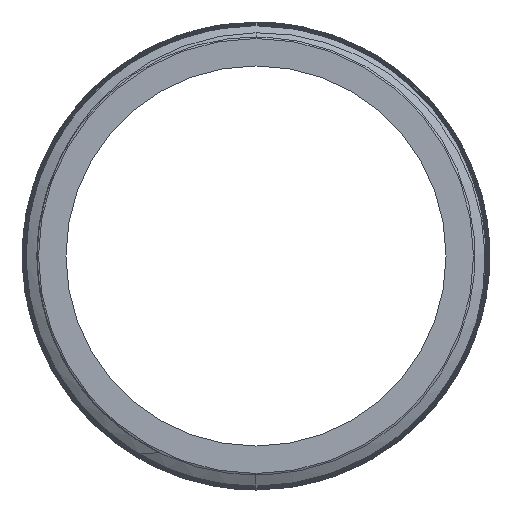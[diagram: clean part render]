
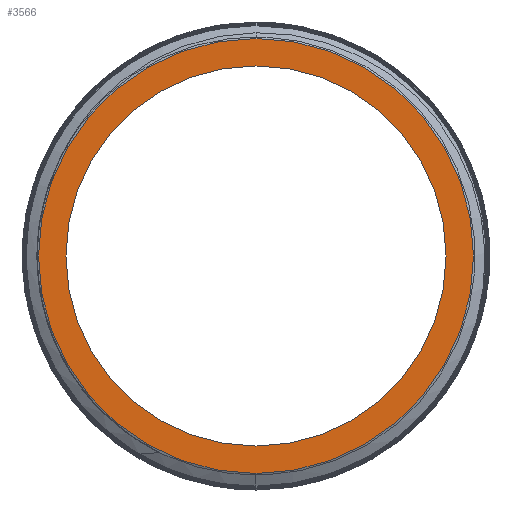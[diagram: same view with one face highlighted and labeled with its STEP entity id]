
A CAD part, left-side view. The second image highlights one B-rep face of the part: STEP entity #3566.
In plain terms, the highlighted planar face has unit normal (-1, 0, 0).
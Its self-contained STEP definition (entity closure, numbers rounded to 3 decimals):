
#7 = FACE_BOUND ( 'NONE', #2348, .T. ) ;
#42 = EDGE_LOOP ( 'NONE', ( #3143, #4885 ) ) ;
#244 = EDGE_CURVE ( 'NONE', #4541, #8817, #6253, .T. ) ;
#324 = EDGE_CURVE ( 'NONE', #8817, #4541, #4328, .T. ) ;
#584 = DIRECTION ( 'NONE',  ( -1., 0., 0. ) ) ;
#599 = CIRCLE ( 'NONE', #2855, 9.9 ) ;
#610 = FACE_OUTER_BOUND ( 'NONE', #42, .T. ) ;
#754 = AXIS2_PLACEMENT_3D ( 'NONE', #7720, #7170, #6315 ) ;
#1380 = CARTESIAN_POINT ( 'NONE',  ( -150., 0., -9.9 ) ) ;
#2048 = DIRECTION ( 'NONE',  ( -1., 0., 0. ) ) ;
#2204 = CARTESIAN_POINT ( 'NONE',  ( -150., 0., 0. ) ) ;
#2325 = CARTESIAN_POINT ( 'NONE',  ( -150., 0., 9.9 ) ) ;
#2348 = EDGE_LOOP ( 'NONE', ( #3970, #7853 ) ) ;
#2611 = CIRCLE ( 'NONE', #8577, 9.9 ) ;
#2855 = AXIS2_PLACEMENT_3D ( 'NONE', #7703, #2048, #5595 ) ;
#2992 = AXIS2_PLACEMENT_3D ( 'NONE', #3411, #5699, #6257 ) ;
#3143 = ORIENTED_EDGE ( 'NONE', *, *, #4545, .T. ) ;
#3312 = VERTEX_POINT ( 'NONE', #2325 ) ;
#3411 = CARTESIAN_POINT ( 'NONE',  ( -150., 0., 0. ) ) ;
#3500 = CARTESIAN_POINT ( 'NONE',  ( -150., 0., 8.65 ) ) ;
#3566 = ADVANCED_FACE ( 'NONE', ( #7, #610 ), #9210, .F. ) ;
#3577 = AXIS2_PLACEMENT_3D ( 'NONE', #2204, #5942, #7304 ) ;
#3970 = ORIENTED_EDGE ( 'NONE', *, *, #244, .F. ) ;
#4328 = CIRCLE ( 'NONE', #3577, 8.65 ) ;
#4541 = VERTEX_POINT ( 'NONE', #3500 ) ;
#4545 = EDGE_CURVE ( 'NONE', #4754, #3312, #599, .T. ) ;
#4754 = VERTEX_POINT ( 'NONE', #1380 ) ;
#4885 = ORIENTED_EDGE ( 'NONE', *, *, #6538, .T. ) ;
#5595 = DIRECTION ( 'NONE',  ( 0., 0., 1. ) ) ;
#5699 = DIRECTION ( 'NONE',  ( -1., 0., 0. ) ) ;
#5942 = DIRECTION ( 'NONE',  ( -1., 0., 0. ) ) ;
#6253 = CIRCLE ( 'NONE', #2992, 8.65 ) ;
#6257 = DIRECTION ( 'NONE',  ( 0., 0., 1. ) ) ;
#6315 = DIRECTION ( 'NONE',  ( 0., 0., -1. ) ) ;
#6538 = EDGE_CURVE ( 'NONE', #3312, #4754, #2611, .T. ) ;
#6820 = DIRECTION ( 'NONE',  ( 0., 0., 1. ) ) ;
#6887 = CARTESIAN_POINT ( 'NONE',  ( -150., 0., -8.65 ) ) ;
#6946 = CARTESIAN_POINT ( 'NONE',  ( -150., 0., 0. ) ) ;
#7170 = DIRECTION ( 'NONE',  ( 1., 0., 0. ) ) ;
#7304 = DIRECTION ( 'NONE',  ( 0., 0., 1. ) ) ;
#7703 = CARTESIAN_POINT ( 'NONE',  ( -150., 0., 0. ) ) ;
#7720 = CARTESIAN_POINT ( 'NONE',  ( -150., 8.65, 0. ) ) ;
#7853 = ORIENTED_EDGE ( 'NONE', *, *, #324, .F. ) ;
#8577 = AXIS2_PLACEMENT_3D ( 'NONE', #6946, #584, #6820 ) ;
#8817 = VERTEX_POINT ( 'NONE', #6887 ) ;
#9210 = PLANE ( 'NONE',  #754 ) ;
